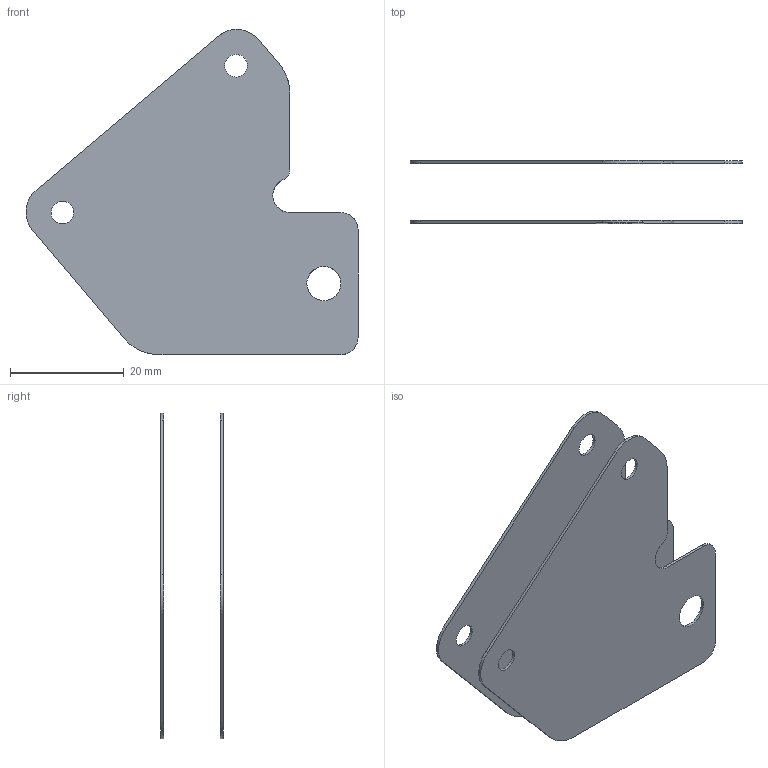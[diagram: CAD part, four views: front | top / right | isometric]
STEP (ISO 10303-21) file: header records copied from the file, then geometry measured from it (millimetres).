
FILE_DESCRIPTION(('CATIA V5 STEP Exchange'),'2;1');
FILE_NAME('E:\Etudes_avions\Sites_web\Apprendre_la_CAO\Sujets\Lampe bureau\Platine Reflecteur.stp','2017-08-03T16:23:31+00:00',('none'),('none'),'CATIA Version 5 Release 21 GA (IN-10)','CATIA V5 STEP AP203','none');
FILE_SCHEMA(('CONFIG_CONTROL_DESIGN'));
Length unit declared in the file: millimetre
Products named in the file (1): Platine reflecteur
Bounding box: 58.41 x 11 x 57.23 mm (x, y, z)
Volume: 2095.8 mm3; surface area: 8621.3 mm2
Topology: 2 solids, 2 shells, 46 faces, 126 edges, 84 vertices
Faces by surface type: cylinder 28, plane 18
Entity records: 1584 total; most frequent: CARTESIAN_POINT 407, ORIENTED_EDGE 252, DIRECTION 188, EDGE_CURVE 126, VERTEX_POINT 84, AXIS2_PLACEMENT_3D 79, VECTOR 64, LINE 64
